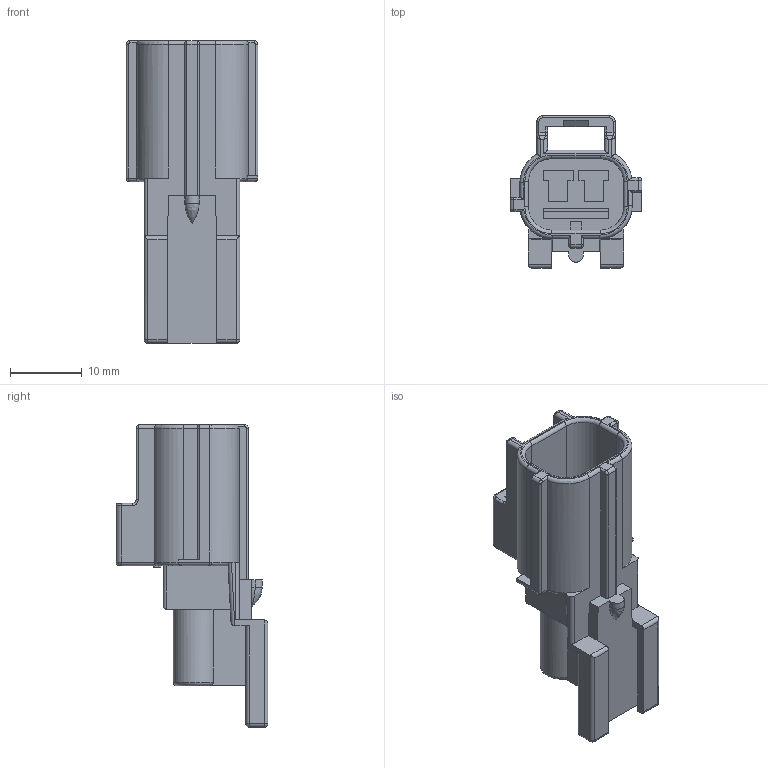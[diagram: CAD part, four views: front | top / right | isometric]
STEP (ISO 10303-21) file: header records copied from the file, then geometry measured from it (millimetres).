
FILE_DESCRIPTION((''),'2;1');
FILE_NAME('C-0184165-01-3','2007-09-03T',('workeradm'),('Tyco Electronics Corporation'),'PRO/ENGINEER BY PARAMETRIC TECHNOLOGY CORPORATION, 2005450','PRO/ENGINEER BY PARAMETRIC TECHNOLOGY CORPORATION, 2005450','');
FILE_SCHEMA(('CONFIG_CONTROL_DESIGN', 'GEOMETRIC_VALIDATION_PROPERTIES_MIM'));
Length unit declared in the file: millimetre
Products named in the file (1): C-0184165-01-3
Bounding box: 18.4 x 21.25 x 42.3 mm (x, y, z)
Volume: 3166.5 mm3; surface area: 4630 mm2
Topology: 1 solids, 1 shells, 296 faces, 759 edges, 471 vertices
Faces by surface type: plane 158, cylinder 92, torus 22, bspline 18, sphere 4, extrusion 2
Entity records: 9716 total; most frequent: CARTESIAN_POINT 2507, ORIENTED_EDGE 1512, DIRECTION 1414, EDGE_CURVE 756, VECTOR 526, LINE 524, VERTEX_POINT 471, AXIS2_PLACEMENT_3D 444
